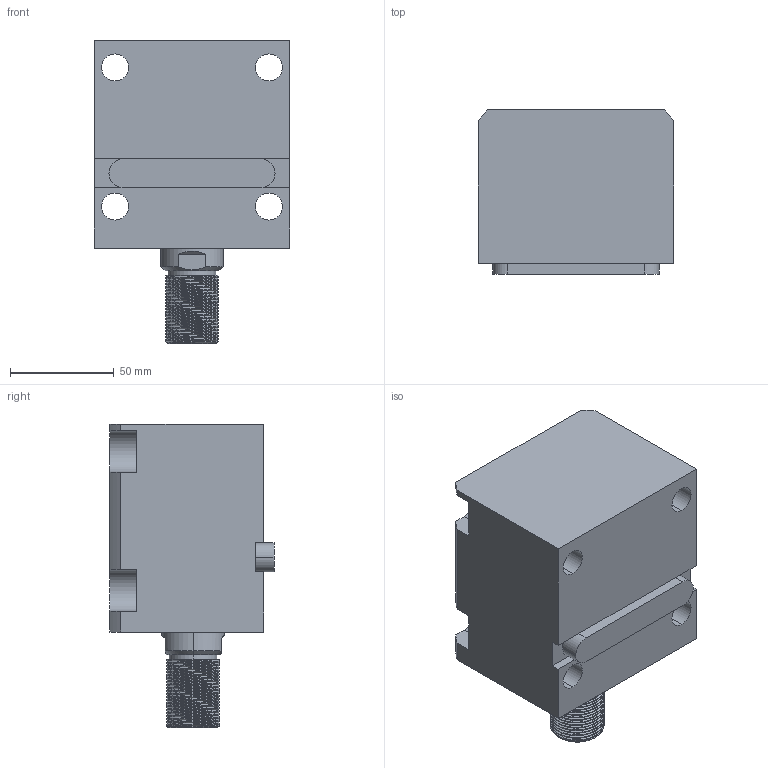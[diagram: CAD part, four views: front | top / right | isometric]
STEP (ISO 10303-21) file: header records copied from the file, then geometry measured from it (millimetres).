
FILE_DESCRIPTION (( 'STEP AP203' ), '1' );
FILE_NAME ('CHTB-LA50-40W.STEP', '2018-05-18T01:28:31', ( '' ), ( '' ), 'SwSTEP 2.0', 'SolidWorks 2015', '' );
FILE_SCHEMA (( 'CONFIG_CONTROL_DESIGN' ));
Length unit declared in the file: millimetre
Products named in the file (4): CHTM-SDMA50QG; 掛极LA50-40W; 活塞杆LA50-40W; CHTB-LA50-40W
Assembly tree (3 placements, depth 2):
  CHTB-LA50-40W
    掛极LA50-40W
    活塞杆LA50-40W
    CHTM-SDMA50QG
Bounding box: 94 x 79 x 146 mm (x, y, z)
Volume: 615637.4 mm3; surface area: 110075 mm2
Topology: 3 solids, 3 shells, 244 faces, 670 edges, 447 vertices
Faces by surface type: cylinder 136, plane 55, cone 21, bspline 16, torus 16
Entity records: 15046 total; most frequent: CARTESIAN_POINT 8903, ORIENTED_EDGE 1332, DIRECTION 1073, EDGE_CURVE 666, VERTEX_POINT 447, AXIS2_PLACEMENT_3D 416, EDGE_LOOP 277, FACE_OUTER_BOUND 244
